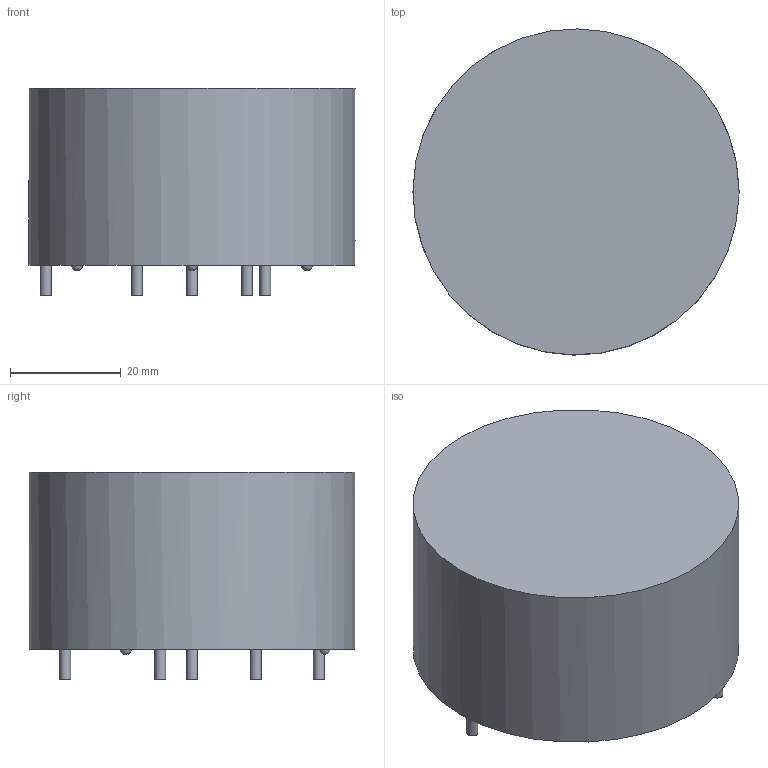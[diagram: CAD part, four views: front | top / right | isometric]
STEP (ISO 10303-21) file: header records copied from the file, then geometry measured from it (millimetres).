
FILE_DESCRIPTION(/* description */ (''),/* implementation_level */ '2;1');
FILE_NAME(/* name */ 'F:\Done\2016\多产品3D模拟\终版\新建文件夹\6123-X320\6123-X320 3D Model.stp',/* time_stamp */ '2016-07-12T14:56:43+08:00',/* author */ ('CN000562'),/* organization */ (''),/* preprocessor_version */ 'ST-DEVELOPER v16.5',/* originating_system */ 'Autodesk Inventor 2017',/* authorisation */ '');
FILE_SCHEMA (('AUTOMOTIVE_DESIGN { 1 0 10303 214 3 1 1 }'));
Length unit declared in the file: millimetre
Products named in the file (1): 6123-X316
Bounding box: 59 x 58.99 x 37.5 mm (x, y, z)
Volume: 87590 mm3; surface area: 11621 mm2
Topology: 1 solids, 1 shells, 20 faces, 39 edges, 27 vertices
Faces by surface type: plane 9, cylinder 8, sphere 3
Full cylindrical faces by diameter (mm): 2 x6, 59 x1
Entity records: 444 total; most frequent: DIRECTION 84, CARTESIAN_POINT 63, ORIENTED_EDGE 44, AXIS2_PLACEMENT_3D 41, EDGE_LOOP 36, EDGE_CURVE 22, FACE_OUTER_BOUND 20, CIRCLE 20
